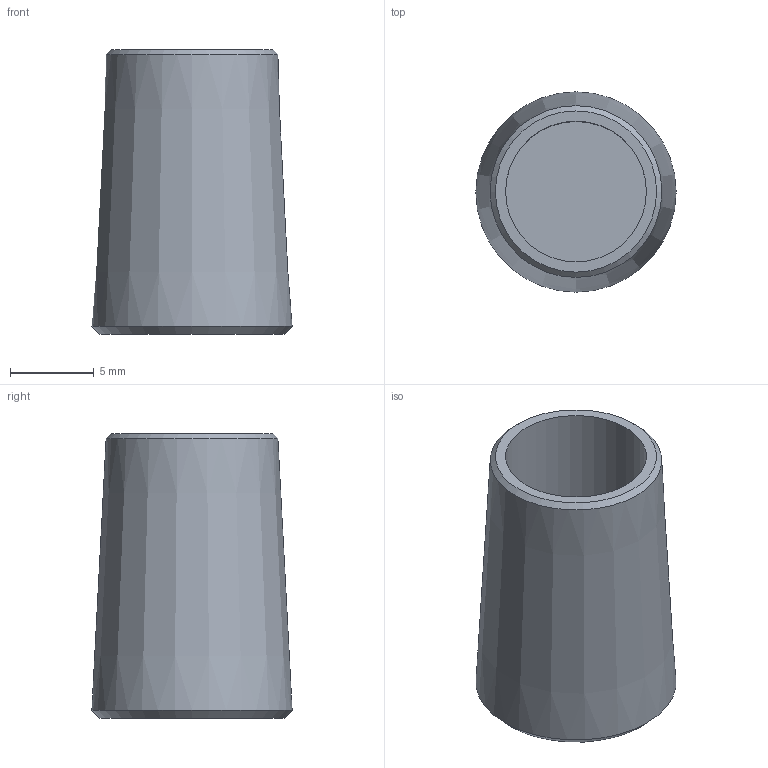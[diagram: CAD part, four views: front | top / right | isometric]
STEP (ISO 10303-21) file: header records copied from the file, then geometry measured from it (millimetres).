
FILE_DESCRIPTION(/* description */ (''),/* implementation_level */ '2;1');
FILE_NAME(/* name */ 'C:\Vault_WS\Designs\SB\01-PX\Verzinkt\ZSS\520 - Kontermutter\520-008-KMU.stp',/* time_stamp */ '2020-06-18T12:21:23+02:00',/* author */ ('schwarz'),/* organization */ (''),/* preprocessor_version */ 'ST-DEVELOPER v16.1',/* originating_system */ 'Autodesk Inventor 2016',/* authorisation */ '');
FILE_SCHEMA (('AUTOMOTIVE_DESIGN { 1 0 10303 214 3 1 1 }'));
Length unit declared in the file: millimetre
Products named in the file (1): Kontermutter 520 008 Kunde
Bounding box: 11.95 x 11.95 x 17 mm (x, y, z)
Volume: 924.9 mm3; surface area: 1114.8 mm2
Topology: 1 solids, 1 shells, 7 faces, 10 edges, 6 vertices
Faces by surface type: cone 3, plane 3, cylinder 1
Full cylindrical faces by diameter (mm): 8.4 x1
Entity records: 158 total; most frequent: DIRECTION 28, CARTESIAN_POINT 20, AXIS2_PLACEMENT_3D 14, EDGE_LOOP 12, ORIENTED_EDGE 12, FACE_OUTER_BOUND 7, ADVANCED_FACE 7, CIRCLE 6
